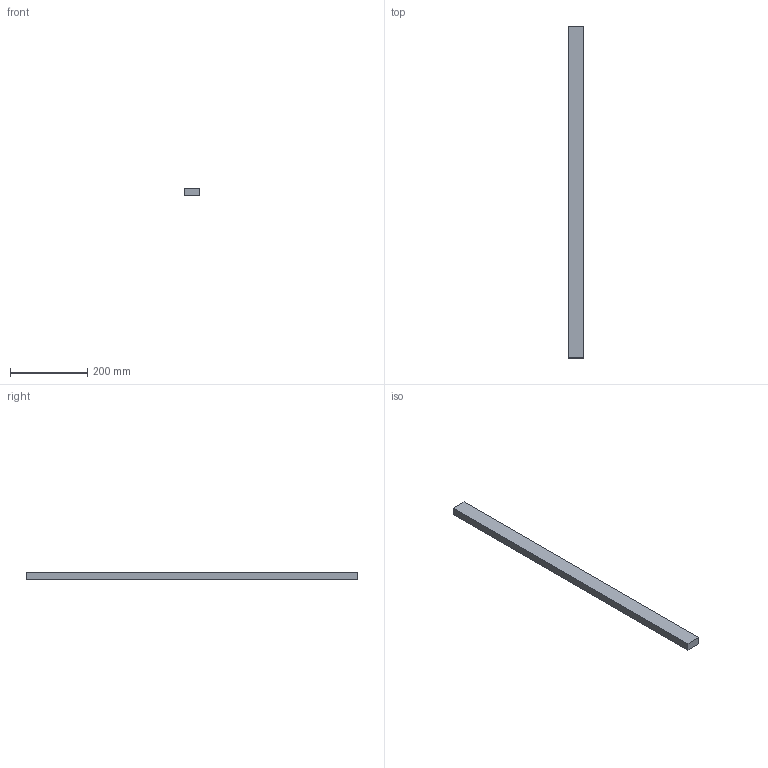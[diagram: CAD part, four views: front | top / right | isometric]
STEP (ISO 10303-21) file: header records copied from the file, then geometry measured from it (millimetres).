
FILE_DESCRIPTION(/* description */ (''),/* implementation_level */ '2;1');
FILE_NAME(/* name */ 'FRC30F~1',/* time_stamp */ '2014-02-14T19:32:16+01:00',/* author */ (''),/* organization */ (''),/* preprocessor_version */ 'ST-DEVELOPER v14',/* originating_system */ '',/* authorisation */ '');
FILE_SCHEMA (('AUTOMOTIVE_DESIGN'));
Length unit declared in the file: millimetre
Products named in the file (1): Document
Bounding box: 40 x 860 x 20 mm (x, y, z)
Volume: 688000 mm3; surface area: 104800 mm2
Topology: 1 solids, 1 shells, 6 faces, 12 edges, 8 vertices
Faces by surface type: plane 6
Entity records: 298 total; most frequent: CARTESIAN_POINT 88, B_SPLINE_CURVE_WITH_KNOTS 36, ORIENTED_EDGE 24, PCURVE 24, DEFINITIONAL_REPRESENTATION 24, SURFACE_CURVE 12, EDGE_CURVE 12, DIRECTION 10
